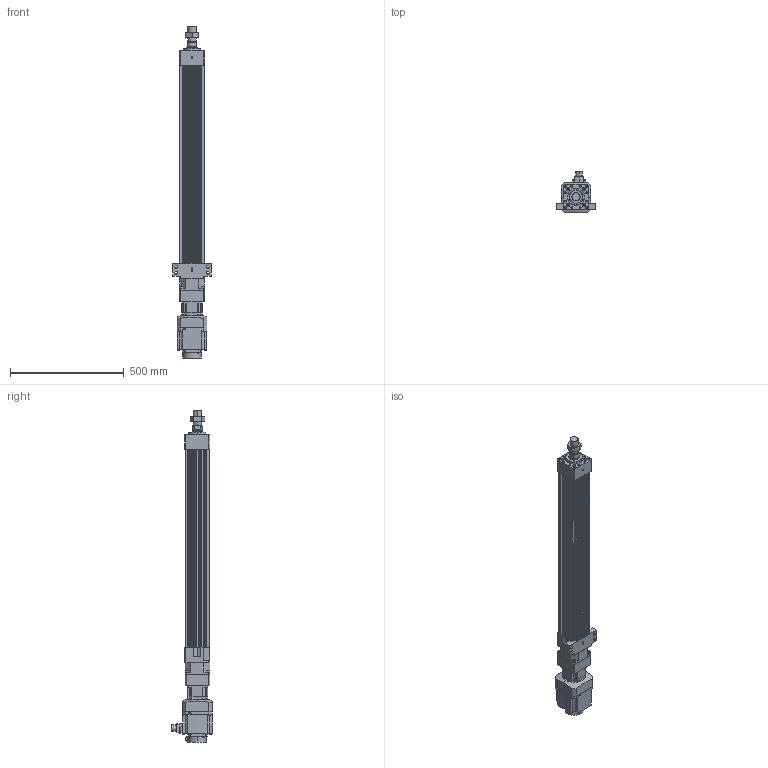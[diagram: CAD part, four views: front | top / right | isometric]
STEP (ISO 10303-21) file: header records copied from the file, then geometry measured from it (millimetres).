
FILE_DESCRIPTION (( 'STEP AP203' ), '1' );
FILE_NAME ('HES110NS(HS)-S700-W010G00-M-FFC.STEP', '2023-01-27T06:55:33', ( 'tms' ), ( '' ), 'SwSTEP 2.0', 'SolidWorks 2013', '' );
FILE_SCHEMA (( 'CONFIG_CONTROL_DESIGN' ));
Length unit declared in the file: millimetre
Products named in the file (8): HES110 ROD M ST700; P0401301004; AB090-003[HG-SR102B]; HES110-S700-G090-FFC; HG-SR102; HES110NS(HS)-S700-W010G00-M-FFC; M36X1.5P; AB0901
Assembly tree (7 placements, depth 3):
  HES110NS(HS)-S700-W010G00-M-FFC
    HES110-S700-G090-FFC
    HES110 ROD M ST700
    M36X1.5P
    AB090-003[HG-SR102B]
      AB0901
      P0401301004
    HG-SR102
Bounding box: 170 x 177.49 x 1458.5 mm (x, y, z)
Volume: 9354664 mm3; surface area: 1320568.6 mm2
Topology: 4 solids, 15 shells, 1217 faces, 3075 edges, 1984 vertices
Faces by surface type: plane 556, cylinder 547, cone 102, bspline 8, torus 4
Entity records: 38420 total; most frequent: CARTESIAN_POINT 7442, DIRECTION 6626, ORIENTED_EDGE 6054, EDGE_CURVE 3037, AXIS2_PLACEMENT_3D 2439, VERTEX_POINT 1984, LINE 1748, VECTOR 1748
